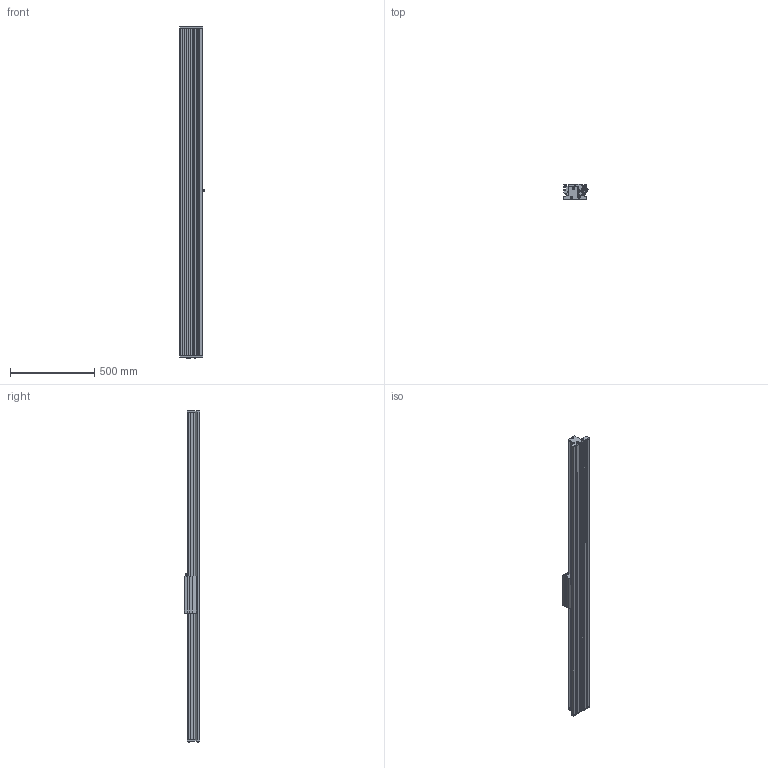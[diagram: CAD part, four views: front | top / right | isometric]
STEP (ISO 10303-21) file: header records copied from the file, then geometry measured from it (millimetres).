
FILE_DESCRIPTION (( 'STEP AP214' ), '1' );
FILE_NAME ('SINADRIVES Linear motor stage MLL20200XS-XX-1-0-ST-00-01956.STEP', '2015-07-06T09:13:15', ( 'Tecnico' ), ( '' ), 'SwSTEP 2.0', 'SolidWorks 2009', '' );
FILE_SCHEMA (( 'AUTOMOTIVE_DESIGN' ));
Length unit declared in the file: millimetre
Products named in the file (7): SINADRIVES PROFILE MLL2XXXX-1940; SINADRIVES CARRIAGE MLL20200XS-1; CARRIAGE MLL20200; Connector power+signal Y-tec 45; SINADRIVES ENDBLOCK MLL2; SINADRIVES ENDBLOCK MLL2-2; SINADRIVES Linear motor stage MLL20200XS-XX-1-0-ST-00-01956
Assembly tree (6 placements, depth 3):
  SINADRIVES Linear motor stage MLL20200XS-XX-1-0-ST-00-01956
    SINADRIVES CARRIAGE MLL20200XS-1
      Connector power+signal Y-tec 45
      CARRIAGE MLL20200
    SINADRIVES PROFILE MLL2XXXX-1940
    SINADRIVES ENDBLOCK MLL2-2
    SINADRIVES ENDBLOCK MLL2
Bounding box: 144.43 x 91 x 1964.8 mm (x, y, z)
Volume: 9008620 mm3; surface area: 1565970.4 mm2
Topology: 2 solids, 42 shells, 950 faces, 2640 edges, 1730 vertices
Faces by surface type: plane 445, cylinder 302, bspline 79, cone 70, torus 42, sphere 12
Entity records: 40587 total; most frequent: CARTESIAN_POINT 8656, ORIENTED_EDGE 5024, DIRECTION 4947, EDGE_CURVE 2622, AXIS2_PLACEMENT_3D 1781, VERTEX_POINT 1730, VECTOR 1385, LINE 1385
